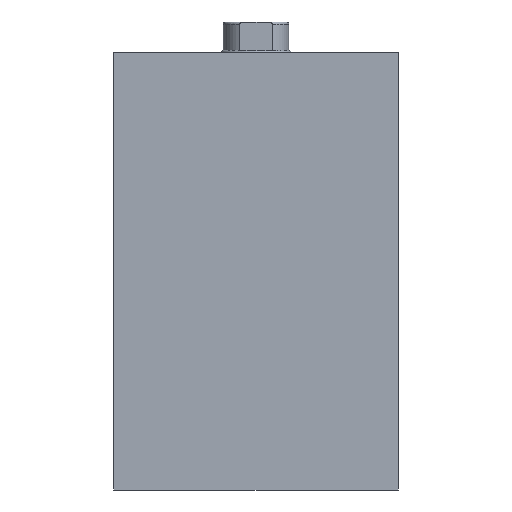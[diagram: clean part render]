
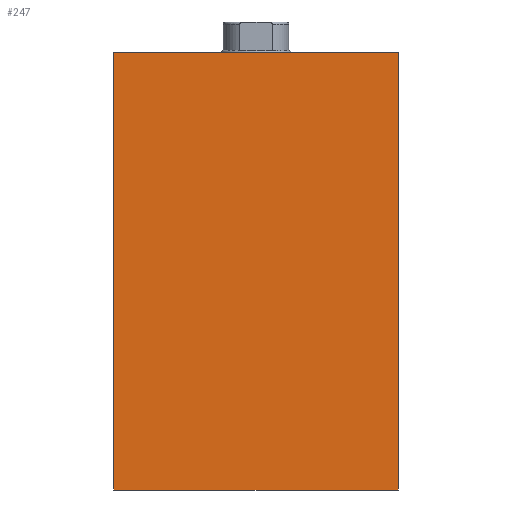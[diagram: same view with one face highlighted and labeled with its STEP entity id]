
A CAD part, left-side view. The second image highlights one B-rep face of the part: STEP entity #247.
In plain terms, the highlighted planar face has unit normal (-1, 0, 0) as drawn and (0, 0, -1) by its records, which use the part's own axes.
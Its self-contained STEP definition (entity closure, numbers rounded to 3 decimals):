
#247 = ADVANCED_FACE( '', ( #328 ), #329, .F. );
#328 = FACE_OUTER_BOUND( '', #524, .T. );
#329 = PLANE( '', #525 );
#524 = EDGE_LOOP( '', ( #739, #740, #741, #742 ) );
#525 = AXIS2_PLACEMENT_3D( '', #743, #744, #745 );
#739 = ORIENTED_EDGE( '', *, *, #1081, .T. );
#740 = ORIENTED_EDGE( '', *, *, #1097, .F. );
#741 = ORIENTED_EDGE( '', *, *, #1092, .F. );
#742 = ORIENTED_EDGE( '', *, *, #1096, .T. );
#743 = CARTESIAN_POINT( '', ( 100., -32.5, -22.5 ) );
#744 = DIRECTION( '', ( 0., 0., 1. ) );
#745 = DIRECTION( '', ( 1., 0., 0. ) );
#1081 = EDGE_CURVE( '', #1175, #1173, #1176, .T. );
#1092 = EDGE_CURVE( '', #1193, #1195, #1196, .T. );
#1096 = EDGE_CURVE( '', #1193, #1175, #1202, .T. );
#1097 = EDGE_CURVE( '', #1195, #1173, #1203, .T. );
#1173 = VERTEX_POINT( '', #1406 );
#1175 = VERTEX_POINT( '', #1409 );
#1176 = LINE( '', #1410, #1411 );
#1193 = VERTEX_POINT( '', #1600 );
#1195 = VERTEX_POINT( '', #1603 );
#1196 = LINE( '', #1604, #1605 );
#1202 = B_SPLINE_CURVE_WITH_KNOTS( '', 1, ( #1678, #1679 ), .UNSPECIFIED., .F., .F., ( 2, 2 ), ( 0., 1. ), .UNSPECIFIED. );
#1203 = B_SPLINE_CURVE_WITH_KNOTS( '', 1, ( #1680, #1681 ), .UNSPECIFIED., .F., .F., ( 2, 2 ), ( 0., 1. ), .UNSPECIFIED. );
#1406 = CARTESIAN_POINT( '', ( 0., 32.5, -22.5 ) );
#1409 = CARTESIAN_POINT( '', ( 0., -32.5, -22.5 ) );
#1410 = CARTESIAN_POINT( '', ( 0., -32.5, -22.5 ) );
#1411 = VECTOR( '', #3655, 1000. );
#1600 = CARTESIAN_POINT( '', ( 100., -32.5, -22.5 ) );
#1603 = CARTESIAN_POINT( '', ( 100., 32.5, -22.5 ) );
#1604 = CARTESIAN_POINT( '', ( 100., -32.5, -22.5 ) );
#1605 = VECTOR( '', #3659, 1000. );
#1678 = CARTESIAN_POINT( '', ( 100., -32.5, -22.5 ) );
#1679 = CARTESIAN_POINT( '', ( 0., -32.5, -22.5 ) );
#1680 = CARTESIAN_POINT( '', ( 100., 32.5, -22.5 ) );
#1681 = CARTESIAN_POINT( '', ( 0., 32.5, -22.5 ) );
#3655 = DIRECTION( '', ( 0., 1., 0. ) );
#3659 = DIRECTION( '', ( 0., 1., 0. ) );
